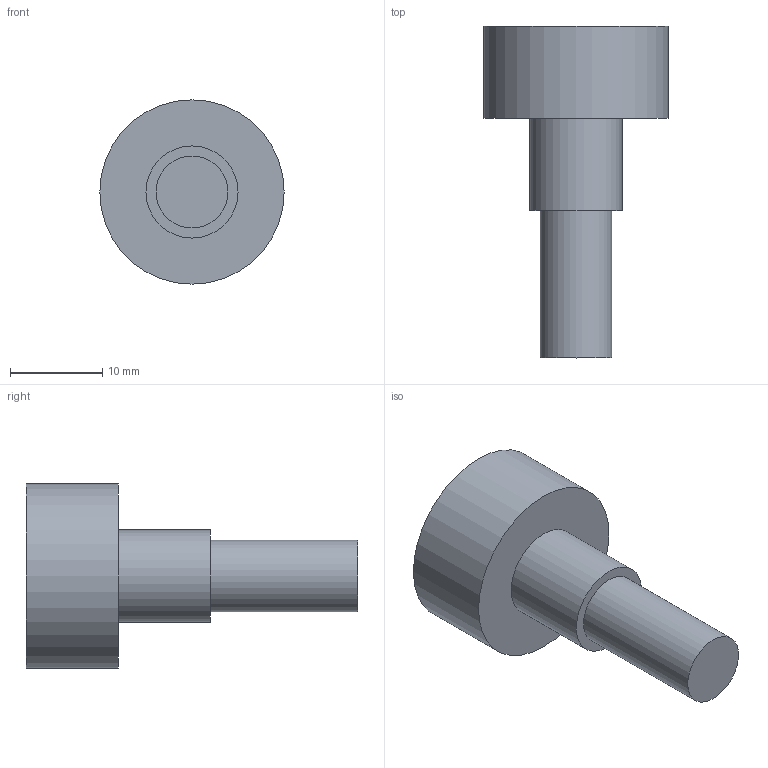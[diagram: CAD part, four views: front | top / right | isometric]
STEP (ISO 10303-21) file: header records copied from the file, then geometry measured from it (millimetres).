
FILE_DESCRIPTION(('Open CASCADE Model'),'2;1');
FILE_NAME('Open CASCADE Shape Model','2026-10-17T22:15:36',('Author'),( 'Open CASCADE'),'Open CASCADE STEP processor 7.9','Open CASCADE 7.9' ,'Unknown');
FILE_SCHEMA(('AUTOMOTIVE_DESIGN { 1 0 10303 214 1 1 1 1 }'));
Length unit declared in the file: millimetre
Products named in the file (1): Open CASCADE STEP translator 7.9 9
Bounding box: 20 x 36 x 20 mm (x, y, z)
Volume: 4691.5 mm3; surface area: 1962.9 mm2
Topology: 1 solids, 1 shells, 7 faces, 9 edges, 6 vertices
Faces by surface type: plane 4, cylinder 3
Full cylindrical faces by diameter (mm): 7.8 x1, 10 x1, 20 x1
Entity records: 279 total; most frequent: DIRECTION 48, CARTESIAN_POINT 47, ORIENTED_EDGE 18, PCURVE 18, DEFINITIONAL_REPRESENTATION 18, LINE 15, VECTOR 15, AXIS2_PLACEMENT_3D 14
